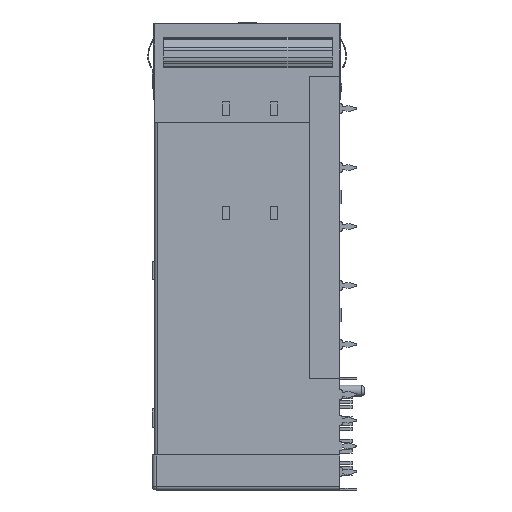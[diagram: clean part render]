
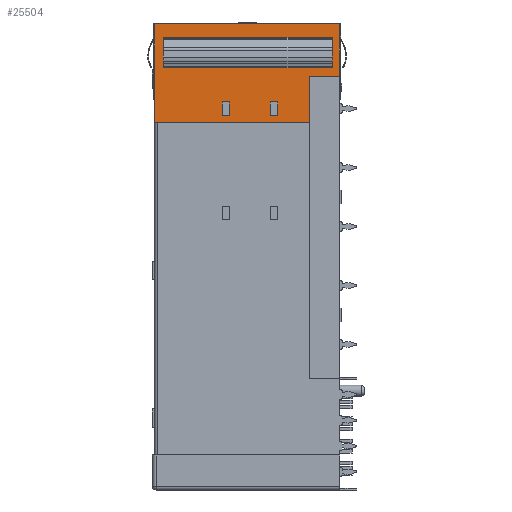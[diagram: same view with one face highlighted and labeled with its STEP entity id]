
A CAD part, left-side view. The second image highlights one B-rep face of the part: STEP entity #25504.
In plain terms, the highlighted planar face has unit normal (-1, 0, 0).
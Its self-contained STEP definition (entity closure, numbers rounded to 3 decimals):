
#566 = EDGE_CURVE ( 'NONE', #28353, #6883, #65733, .T. ) ;
#1039 = ORIENTED_EDGE ( 'NONE', *, *, #56493, .T. ) ;
#1506 = VERTEX_POINT ( 'NONE', #44410 ) ;
#1880 = DIRECTION ( 'NONE',  ( 0., 0., -1. ) ) ;
#2558 = VECTOR ( 'NONE', #27934, 1000. ) ;
#4095 = LINE ( 'NONE', #51691, #63624 ) ;
#4350 = LINE ( 'NONE', #22177, #2558 ) ;
#5545 = DIRECTION ( 'NONE',  ( 0., -1., 0. ) ) ;
#6144 = EDGE_CURVE ( 'NONE', #43197, #36180, #4350, .T. ) ;
#6462 = CARTESIAN_POINT ( 'NONE',  ( -21.625, 0.1, -7.1 ) ) ;
#6475 = LINE ( 'NONE', #68857, #66001 ) ;
#6883 = VERTEX_POINT ( 'NONE', #19785 ) ;
#7316 = VECTOR ( 'NONE', #16450, 1000. ) ;
#8598 = LINE ( 'NONE', #26197, #50924 ) ;
#8799 = ORIENTED_EDGE ( 'NONE', *, *, #566, .T. ) ;
#9212 = VECTOR ( 'NONE', #31630, 1000. ) ;
#9287 = ORIENTED_EDGE ( 'NONE', *, *, #54281, .T. ) ;
#9435 = ORIENTED_EDGE ( 'NONE', *, *, #37415, .F. ) ;
#9872 = FACE_BOUND ( 'NONE', #35229, .T. ) ;
#10168 = VECTOR ( 'NONE', #30422, 1000. ) ;
#10247 = LINE ( 'NONE', #25471, #52624 ) ;
#10623 = CARTESIAN_POINT ( 'NONE',  ( -21.625, 1.05, -2.181 ) ) ;
#11373 = VECTOR ( 'NONE', #35822, 1000. ) ;
#11664 = CARTESIAN_POINT ( 'NONE',  ( -21.625, 0.1, 0. ) ) ;
#12426 = CARTESIAN_POINT ( 'NONE',  ( -21.625, 0., -10.6 ) ) ;
#14532 = CARTESIAN_POINT ( 'NONE',  ( -21.625, 9.45, 0. ) ) ;
#14789 = CARTESIAN_POINT ( 'NONE',  ( -21.625, 4.1, 0. ) ) ;
#14842 = VECTOR ( 'NONE', #22044, 1000. ) ;
#15474 = EDGE_CURVE ( 'NONE', #36180, #73516, #22723, .T. ) ;
#16443 = CARTESIAN_POINT ( 'NONE',  ( -21.625, 0., -12.4 ) ) ;
#16450 = DIRECTION ( 'NONE',  ( 0., 1., 0. ) ) ;
#16830 = ORIENTED_EDGE ( 'NONE', *, *, #30831, .T. ) ;
#17103 = PLANE ( 'NONE',  #64923 ) ;
#17205 = CARTESIAN_POINT ( 'NONE',  ( -21.625, 15., -12.4 ) ) ;
#17486 = DIRECTION ( 'NONE',  ( 0., 0., 1. ) ) ;
#17711 = EDGE_CURVE ( 'NONE', #20411, #44357, #4095, .T. ) ;
#17892 = VECTOR ( 'NONE', #1880, 1000. ) ;
#17952 = VECTOR ( 'NONE', #67231, 1000. ) ;
#19039 = CARTESIAN_POINT ( 'NONE',  ( -21.625, 15., 0. ) ) ;
#19785 = CARTESIAN_POINT ( 'NONE',  ( -21.625, 8.45, -12.4 ) ) ;
#20411 = VERTEX_POINT ( 'NONE', #38137 ) ;
#20487 = DIRECTION ( 'NONE',  ( 0., -1., 0. ) ) ;
#21719 = ORIENTED_EDGE ( 'NONE', *, *, #72883, .T. ) ;
#21832 = ORIENTED_EDGE ( 'NONE', *, *, #17711, .T. ) ;
#22044 = DIRECTION ( 'NONE',  ( 0., 1., 0. ) ) ;
#22177 = CARTESIAN_POINT ( 'NONE',  ( -21.625, 1.05, -1.9 ) ) ;
#22443 = EDGE_CURVE ( 'NONE', #26532, #45408, #48498, .T. ) ;
#22723 = LINE ( 'NONE', #10623, #7316 ) ;
#22964 = DIRECTION ( 'NONE',  ( 0., 0., -1. ) ) ;
#23367 = VECTOR ( 'NONE', #20487, 1000. ) ;
#23490 = FACE_OUTER_BOUND ( 'NONE', #34865, .T. ) ;
#24508 = VERTEX_POINT ( 'NONE', #35367 ) ;
#24641 = LINE ( 'NONE', #25898, #9212 ) ;
#24680 = CARTESIAN_POINT ( 'NONE',  ( -21.625, 16., 0. ) ) ;
#25183 = LINE ( 'NONE', #43327, #23367 ) ;
#25471 = CARTESIAN_POINT ( 'NONE',  ( -21.625, 25.3, 0. ) ) ;
#25504 = ADVANCED_FACE ( 'NONE', ( #9872, #40526, #38715, #23490 ), #17103, .F. ) ;
#25898 = CARTESIAN_POINT ( 'NONE',  ( -21.625, 1.05, -1.9 ) ) ;
#26163 = EDGE_LOOP ( 'NONE', ( #71479, #63511, #65188, #9287 ) ) ;
#26197 = CARTESIAN_POINT ( 'NONE',  ( -21.625, 25.1, 0. ) ) ;
#26381 = CARTESIAN_POINT ( 'NONE',  ( -21.625, 15., -10.6 ) ) ;
#26443 = DIRECTION ( 'NONE',  ( 0., 0., 1. ) ) ;
#26532 = VERTEX_POINT ( 'NONE', #26381 ) ;
#27211 = ORIENTED_EDGE ( 'NONE', *, *, #57302, .T. ) ;
#27270 = CARTESIAN_POINT ( 'NONE',  ( -21.625, 23.95, -1.9 ) ) ;
#27765 = EDGE_CURVE ( 'NONE', #49876, #20411, #8598, .T. ) ;
#27934 = DIRECTION ( 'NONE',  ( 0., 0., -1. ) ) ;
#28353 = VERTEX_POINT ( 'NONE', #50219 ) ;
#28453 = CARTESIAN_POINT ( 'NONE',  ( -21.625, 0., 0. ) ) ;
#30041 = DIRECTION ( 'NONE',  ( 0., 0., -1. ) ) ;
#30047 = CARTESIAN_POINT ( 'NONE',  ( -21.625, 23.95, -2.181 ) ) ;
#30422 = DIRECTION ( 'NONE',  ( 0., 0., 1. ) ) ;
#30831 = EDGE_CURVE ( 'NONE', #64970, #49876, #10247, .T. ) ;
#31209 = DIRECTION ( 'NONE',  ( 0., 1., 0. ) ) ;
#31630 = DIRECTION ( 'NONE',  ( 0., 1., 0. ) ) ;
#31991 = LINE ( 'NONE', #16443, #14842 ) ;
#34323 = ORIENTED_EDGE ( 'NONE', *, *, #43047, .T. ) ;
#34865 = EDGE_LOOP ( 'NONE', ( #1039, #61289, #21719, #16830, #41175, #21832 ) ) ;
#35229 = EDGE_LOOP ( 'NONE', ( #34323, #27211, #8799, #67054 ) ) ;
#35367 = CARTESIAN_POINT ( 'NONE',  ( -21.625, 16., -10.6 ) ) ;
#35822 = DIRECTION ( 'NONE',  ( 0., 1., 0. ) ) ;
#36180 = VERTEX_POINT ( 'NONE', #46068 ) ;
#36488 = CARTESIAN_POINT ( 'NONE',  ( -21.625, 9.45, -10.6 ) ) ;
#37415 = EDGE_CURVE ( 'NONE', #47537, #73516, #55296, .T. ) ;
#37836 = ORIENTED_EDGE ( 'NONE', *, *, #43536, .F. ) ;
#38137 = CARTESIAN_POINT ( 'NONE',  ( -21.625, 25.1, -13.4 ) ) ;
#38715 = FACE_BOUND ( 'NONE', #49894, .T. ) ;
#38788 = LINE ( 'NONE', #11664, #69487 ) ;
#40526 = FACE_BOUND ( 'NONE', #26163, .T. ) ;
#41175 = ORIENTED_EDGE ( 'NONE', *, *, #27765, .T. ) ;
#41550 = CARTESIAN_POINT ( 'NONE',  ( -21.625, 23.95, -1.9 ) ) ;
#43047 = EDGE_CURVE ( 'NONE', #1506, #53227, #43498, .T. ) ;
#43197 = VERTEX_POINT ( 'NONE', #45490 ) ;
#43327 = CARTESIAN_POINT ( 'NONE',  ( -21.625, 0., -7.1 ) ) ;
#43498 = LINE ( 'NONE', #14532, #60708 ) ;
#43536 = EDGE_CURVE ( 'NONE', #43197, #47537, #24641, .T. ) ;
#44357 = VERTEX_POINT ( 'NONE', #45324 ) ;
#44410 = CARTESIAN_POINT ( 'NONE',  ( -21.625, 9.45, -12.4 ) ) ;
#44852 = LINE ( 'NONE', #12426, #73766 ) ;
#45324 = CARTESIAN_POINT ( 'NONE',  ( -21.625, 4.1, -13.4 ) ) ;
#45408 = VERTEX_POINT ( 'NONE', #17205 ) ;
#45490 = CARTESIAN_POINT ( 'NONE',  ( -21.625, 1.05, -1.9 ) ) ;
#46068 = CARTESIAN_POINT ( 'NONE',  ( -21.625, 1.05, -2.181 ) ) ;
#47537 = VERTEX_POINT ( 'NONE', #27270 ) ;
#48498 = LINE ( 'NONE', #19039, #17892 ) ;
#49875 = EDGE_CURVE ( 'NONE', #62842, #65645, #25183, .T. ) ;
#49876 = VERTEX_POINT ( 'NONE', #54955 ) ;
#49894 = EDGE_LOOP ( 'NONE', ( #37836, #65766, #70996, #9435 ) ) ;
#50219 = CARTESIAN_POINT ( 'NONE',  ( -21.625, 8.45, -10.6 ) ) ;
#50924 = VECTOR ( 'NONE', #54841, 1000. ) ;
#51691 = CARTESIAN_POINT ( 'NONE',  ( -21.625, 25.2, -13.4 ) ) ;
#52624 = VECTOR ( 'NONE', #31209, 1000. ) ;
#52750 = CARTESIAN_POINT ( 'NONE',  ( -21.625, 16., -12.4 ) ) ;
#53227 = VERTEX_POINT ( 'NONE', #36488 ) ;
#53500 = VECTOR ( 'NONE', #30041, 1000. ) ;
#54281 = EDGE_CURVE ( 'NONE', #45408, #59819, #72710, .T. ) ;
#54827 = DIRECTION ( 'NONE',  ( 0., 0., 1. ) ) ;
#54841 = DIRECTION ( 'NONE',  ( 0., 0., -1. ) ) ;
#54955 = CARTESIAN_POINT ( 'NONE',  ( -21.625, 25.1, 0. ) ) ;
#55296 = LINE ( 'NONE', #41550, #53500 ) ;
#56493 = EDGE_CURVE ( 'NONE', #44357, #62842, #66939, .T. ) ;
#57302 = EDGE_CURVE ( 'NONE', #53227, #28353, #6475, .T. ) ;
#57370 = DIRECTION ( 'NONE',  ( 1., 0., 0. ) ) ;
#57489 = DIRECTION ( 'NONE',  ( 0., -1., 0. ) ) ;
#58553 = DIRECTION ( 'NONE',  ( 0., -1., 0. ) ) ;
#59819 = VERTEX_POINT ( 'NONE', #52750 ) ;
#59821 = EDGE_CURVE ( 'NONE', #24508, #26532, #44852, .T. ) ;
#60708 = VECTOR ( 'NONE', #54827, 1000. ) ;
#61289 = ORIENTED_EDGE ( 'NONE', *, *, #49875, .T. ) ;
#61418 = CARTESIAN_POINT ( 'NONE',  ( -21.625, 8.45, 0. ) ) ;
#61749 = EDGE_CURVE ( 'NONE', #6883, #1506, #31991, .T. ) ;
#62842 = VERTEX_POINT ( 'NONE', #72719 ) ;
#63290 = CARTESIAN_POINT ( 'NONE',  ( -21.625, 0.1, 0. ) ) ;
#63511 = ORIENTED_EDGE ( 'NONE', *, *, #59821, .T. ) ;
#63624 = VECTOR ( 'NONE', #57489, 1000. ) ;
#64564 = CARTESIAN_POINT ( 'NONE',  ( -21.625, 0., -12.4 ) ) ;
#64923 = AXIS2_PLACEMENT_3D ( 'NONE', #28453, #57370, #22964 ) ;
#64970 = VERTEX_POINT ( 'NONE', #63290 ) ;
#65147 = VECTOR ( 'NONE', #26443, 1000. ) ;
#65188 = ORIENTED_EDGE ( 'NONE', *, *, #22443, .T. ) ;
#65645 = VERTEX_POINT ( 'NONE', #6462 ) ;
#65733 = LINE ( 'NONE', #61418, #17952 ) ;
#65766 = ORIENTED_EDGE ( 'NONE', *, *, #6144, .T. ) ;
#66001 = VECTOR ( 'NONE', #5545, 1000. ) ;
#66939 = LINE ( 'NONE', #14789, #65147 ) ;
#67054 = ORIENTED_EDGE ( 'NONE', *, *, #61749, .T. ) ;
#67231 = DIRECTION ( 'NONE',  ( 0., 0., -1. ) ) ;
#68857 = CARTESIAN_POINT ( 'NONE',  ( -21.625, 0., -10.6 ) ) ;
#69487 = VECTOR ( 'NONE', #17486, 1000. ) ;
#70996 = ORIENTED_EDGE ( 'NONE', *, *, #15474, .T. ) ;
#71479 = ORIENTED_EDGE ( 'NONE', *, *, #71588, .T. ) ;
#71513 = LINE ( 'NONE', #24680, #10168 ) ;
#71588 = EDGE_CURVE ( 'NONE', #59819, #24508, #71513, .T. ) ;
#72710 = LINE ( 'NONE', #64564, #11373 ) ;
#72719 = CARTESIAN_POINT ( 'NONE',  ( -21.625, 4.1, -7.1 ) ) ;
#72883 = EDGE_CURVE ( 'NONE', #65645, #64970, #38788, .T. ) ;
#73516 = VERTEX_POINT ( 'NONE', #30047 ) ;
#73766 = VECTOR ( 'NONE', #58553, 1000. ) ;
